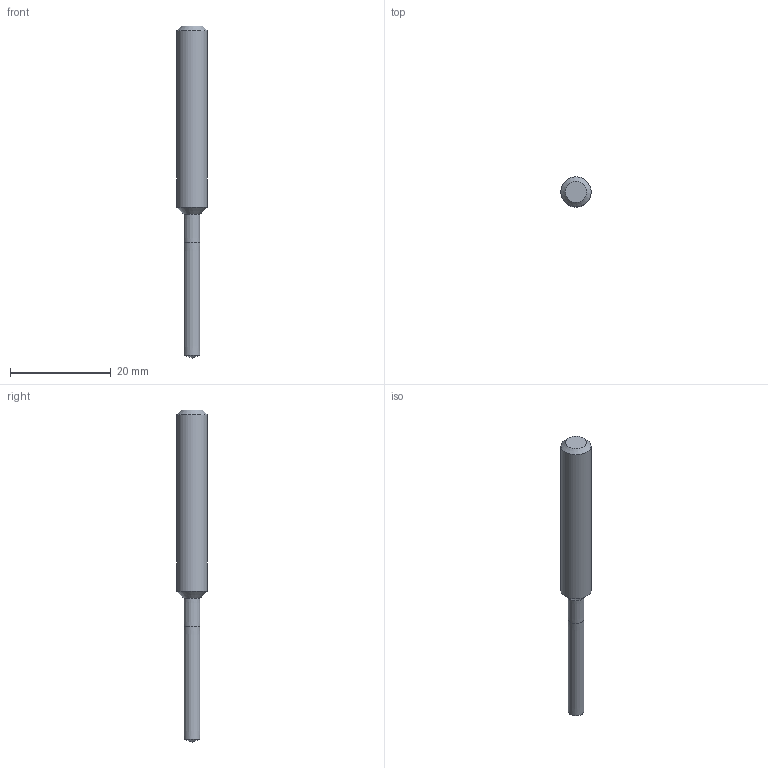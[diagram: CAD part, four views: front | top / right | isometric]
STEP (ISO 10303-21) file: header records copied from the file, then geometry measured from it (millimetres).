
FILE_DESCRIPTION(/* description */ (''),/* implementation_level */ '2;1');
FILE_NAME(/* name */ 'PLM~180329165737~TIX~0160~7462062~MOD~TM01_00~DC150-05-03.175A0-WJ30TA_ISO~FR.STP',/* time_stamp */ '2018-03-29T17:02:42+02:00',/* author */ ('VR - J.Pauli'),/* organization */ ('Walter AG'),/* preprocessor_version */ 'ST-DEVELOPER v15',/* originating_system */ 'SIEMENS PLM Software NX 8.5',/* authorisation */ '');
FILE_SCHEMA (('AUTOMOTIVE_DESIGN { 1 0 10303 214 3 1 1 1 }'));
Length unit declared in the file: millimetre
Products named in the file (1): PLM~180329165737~TIX~0160~7462062~MOD~TM01_00~DC150-05-03.175A0-WJ30T
A_ISO~FR
Bounding box: 5.98 x 5.98 x 66 mm (x, y, z)
Volume: 1258.2 mm3; surface area: 1028.2 mm2
Topology: 2 solids, 2 shells, 9 faces, 19 edges, 16 vertices
Faces by surface type: cone 5, plane 3, cylinder 1
Full cylindrical faces by diameter (mm): 6 x1
Entity records: 256 total; most frequent: DIRECTION 43, CARTESIAN_POINT 31, AXIS2_PLACEMENT_3D 20, EDGE_LOOP 14, ORIENTED_EDGE 14, FACE_BOUND 12, ADVANCED_FACE 9, VERTEX_POINT 8
